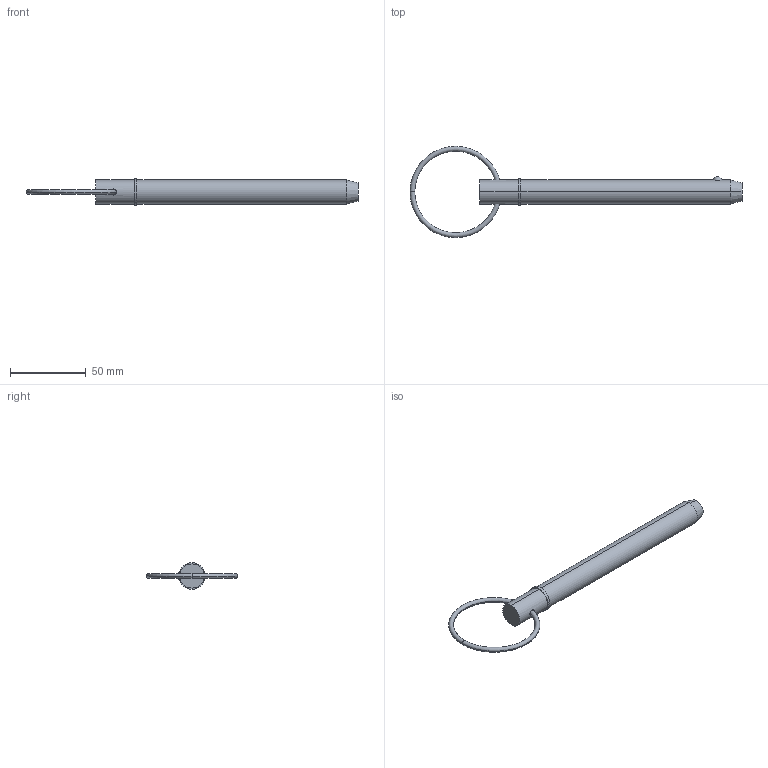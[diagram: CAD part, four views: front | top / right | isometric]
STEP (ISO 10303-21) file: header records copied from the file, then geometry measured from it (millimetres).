
FILE_DESCRIPTION (( 'STEP AP203' ), '1' );
FILE_NAME ('33016.W6250.step', '2024-11-07T11:13:17', ( '' ), ( '' ), 'SwSTEP 2.0', 'SolidWorks 2019', '' );
FILE_SCHEMA (( 'CONFIG_CONTROL_DESIGN' ));
Length unit declared in the file: millimetre
Products named in the file (3): 33016.W6250; Part2_33016.W6250; Part1_33016.W6250
Assembly tree (2 placements, depth 2):
  33016.W6250
    Part1_33016.W6250
    Part2_33016.W6250
Bounding box: 219.38 x 60.33 x 17.47 mm (x, y, z)
Volume: 35325.7 mm3; surface area: 10995.5 mm2
Topology: 2 solids, 2 shells, 22 faces, 43 edges, 26 vertices
Faces by surface type: torus 8, cylinder 6, plane 4, sphere 2, cone 2
Entity records: 1047 total; most frequent: CARTESIAN_POINT 270, DIRECTION 120, ORIENTED_EDGE 86, AXIS2_PLACEMENT_3D 56, EDGE_CURVE 43, CIRCLE 29, EDGE_LOOP 27, VERTEX_POINT 26
